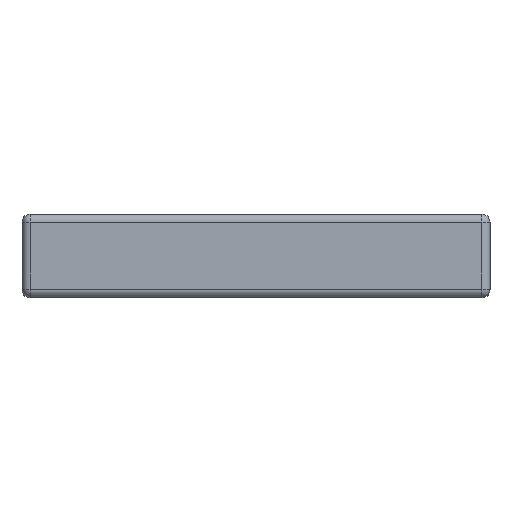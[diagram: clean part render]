
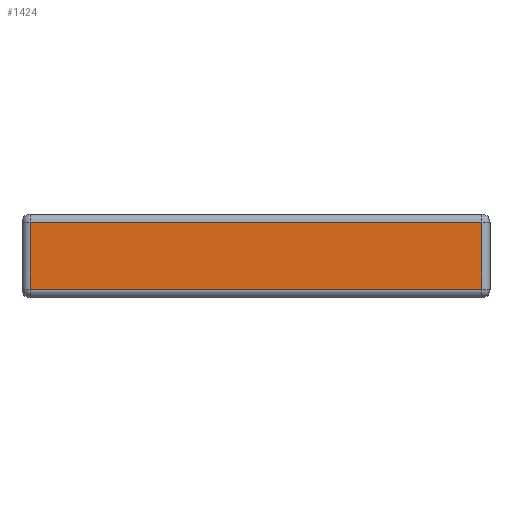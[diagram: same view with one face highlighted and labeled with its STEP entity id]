
A CAD part, top view. The second image highlights one B-rep face of the part: STEP entity #1424.
In plain terms, the highlighted planar face has unit normal (0, 0, 1).
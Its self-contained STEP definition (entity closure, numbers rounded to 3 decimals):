
#169=ORIENTED_EDGE('',*,*,#398,.T.);
#170=ORIENTED_EDGE('',*,*,#399,.T.);
#171=ORIENTED_EDGE('',*,*,#400,.F.);
#172=ORIENTED_EDGE('',*,*,#401,.F.);
#398=EDGE_CURVE('',#520,#521,#589,.T.);
#399=EDGE_CURVE('',#521,#522,#590,.T.);
#400=EDGE_CURVE('',#523,#522,#591,.T.);
#401=EDGE_CURVE('',#520,#523,#592,.T.);
#520=VERTEX_POINT('',#2016);
#521=VERTEX_POINT('',#2017);
#522=VERTEX_POINT('',#2019);
#523=VERTEX_POINT('',#2021);
#589=LINE('',#2015,#675);
#590=LINE('',#2018,#676);
#591=LINE('',#2020,#677);
#592=LINE('',#2022,#678);
#675=VECTOR('',#1715,1000.);
#676=VECTOR('',#1716,1000.);
#677=VECTOR('',#1717,1000.);
#678=VECTOR('',#1718,1000.);
#769=EDGE_LOOP('',(#169,#170,#171,#172));
#857=FACE_BOUND('',#769,.T.);
#918=PLANE('',#1516);
#1424=ADVANCED_FACE('',(#857),#918,.F.);
#1516=AXIS2_PLACEMENT_3D('',#2014,#1713,#1714);
#1713=DIRECTION('',(0.,0.,-1.));
#1714=DIRECTION('',(-1.,0.,0.));
#1715=DIRECTION('',(0.,1.,0.));
#1716=DIRECTION('',(-1.,0.,0.));
#1717=DIRECTION('',(0.,1.,0.));
#1718=DIRECTION('',(-1.,0.,0.));
#2014=CARTESIAN_POINT('',(15.625,-5.,8.17));
#2015=CARTESIAN_POINT('',(15.125,-5.,8.17));
#2016=CARTESIAN_POINT('',(15.125,-4.5,8.17));
#2017=CARTESIAN_POINT('',(15.125,-0.5,8.17));
#2018=CARTESIAN_POINT('',(15.625,-0.5,8.17));
#2019=CARTESIAN_POINT('',(-11.875,-0.5,8.17));
#2020=CARTESIAN_POINT('',(-11.875,-5.,8.17));
#2021=CARTESIAN_POINT('',(-11.875,-4.5,8.17));
#2022=CARTESIAN_POINT('',(15.625,-4.5,8.17));
